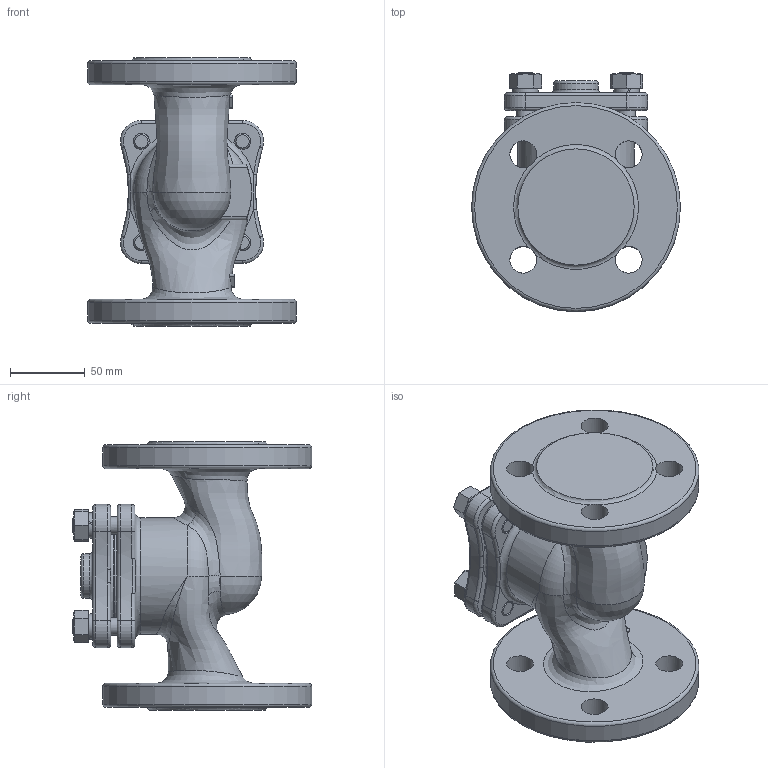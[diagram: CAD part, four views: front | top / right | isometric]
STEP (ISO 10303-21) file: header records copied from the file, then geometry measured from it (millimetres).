
FILE_DESCRIPTION(/* description */ (''),/* implementation_level */ '2;1');
FILE_NAME(/* name */ 'ZV226_DN32.stp',/* time_stamp */ '2012-11-09T09:13:45+01:00',/* author */ (''),/* organization */ ('LDM'),/* preprocessor_version */ 'ST-DEVELOPER v11',/* originating_system */ 'SIEMENS PLM Software NX 7.0',/* authorisation */ '');
FILE_SCHEMA (('CONFIG_CONTROL_DESIGN'));
Length unit declared in the file: millimetre
Products named in the file (1): adam1FBC7io4
Bounding box: 140 x 160.5 x 180 mm (x, y, z)
Volume: 1186759.3 mm3; surface area: 140776.6 mm2
Topology: 1 solids, 1 shells, 272 faces, 703 edges, 425 vertices
Faces by surface type: plane 86, cone 61, cylinder 60, torus 49, bspline 15, sphere 1
Full cylindrical faces by diameter (mm): 10.917 x4, 12 x4, 14 x4, 18 x8, 30 x1, 72 x1, 78 x2, 140 x2
Entity records: 11464 total; most frequent: CARTESIAN_POINT 5462, DIRECTION 1242, ORIENTED_EDGE 1182, EDGE_CURVE 591, AXIS2_PLACEMENT_3D 569, VERTEX_POINT 375, EDGE_LOOP 364, CIRCLE 291
